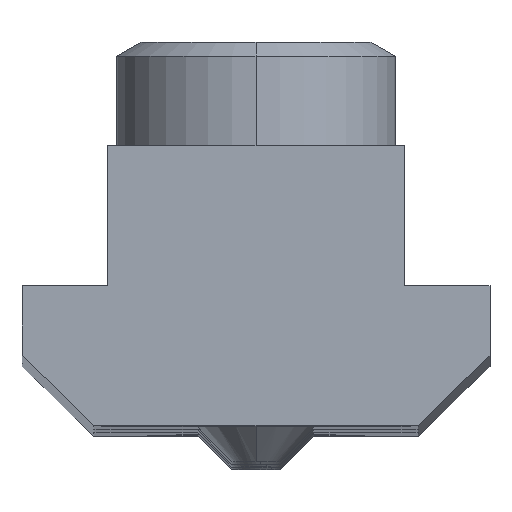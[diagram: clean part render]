
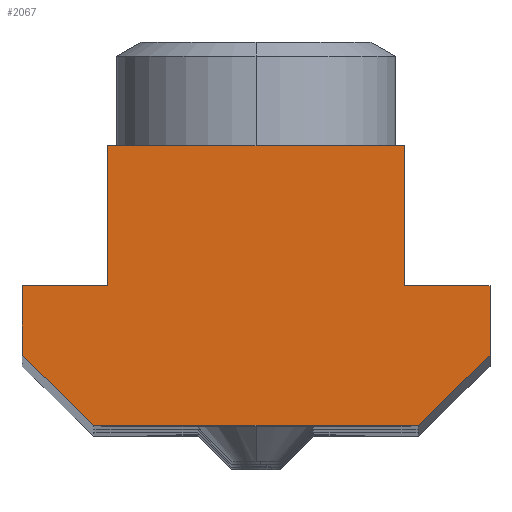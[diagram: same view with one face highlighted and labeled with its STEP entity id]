
A CAD part, top view. The second image highlights one B-rep face of the part: STEP entity #2067.
In plain terms, the highlighted planar face has unit normal (0, 0, 1).
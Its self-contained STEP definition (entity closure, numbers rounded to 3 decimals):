
#40 = VERTEX_POINT ( 'NONE', #1275 ) ;
#109 = ORIENTED_EDGE ( 'NONE', *, *, #1370, .T. ) ;
#114 = CARTESIAN_POINT ( 'NONE',  ( 6.7, -6., 90. ) ) ;
#123 = VECTOR ( 'NONE', #1842, 1000. ) ;
#195 = DIRECTION ( 'NONE',  ( 0.716, 0.698, 0. ) ) ;
#204 = EDGE_CURVE ( 'NONE', #691, #1889, #1549, .T. ) ;
#225 = ORIENTED_EDGE ( 'NONE', *, *, #2765, .T. ) ;
#244 = LINE ( 'NONE', #1767, #336 ) ;
#270 = VECTOR ( 'NONE', #195, 1000. ) ;
#278 = CARTESIAN_POINT ( 'NONE',  ( -4.65, -8., 90. ) ) ;
#292 = ORIENTED_EDGE ( 'NONE', *, *, #1390, .T. ) ;
#299 = EDGE_CURVE ( 'NONE', #1618, #513, #565, .T. ) ;
#336 = VECTOR ( 'NONE', #2431, 1000. ) ;
#338 = DIRECTION ( 'NONE',  ( 1., 0., 0. ) ) ;
#347 = CARTESIAN_POINT ( 'NONE',  ( -4.25, 0., 90. ) ) ;
#366 = DIRECTION ( 'NONE',  ( 0., -1., 0. ) ) ;
#401 = LINE ( 'NONE', #575, #1674 ) ;
#417 = ORIENTED_EDGE ( 'NONE', *, *, #721, .T. ) ;
#444 = VECTOR ( 'NONE', #1649, 1000. ) ;
#483 = CARTESIAN_POINT ( 'NONE',  ( -4.25, -4., 90. ) ) ;
#506 = CARTESIAN_POINT ( 'NONE',  ( 6.7, -6., 90. ) ) ;
#513 = VERTEX_POINT ( 'NONE', #2853 ) ;
#535 = FACE_OUTER_BOUND ( 'NONE', #1025, .T. ) ;
#557 = VERTEX_POINT ( 'NONE', #1051 ) ;
#565 = LINE ( 'NONE', #347, #1011 ) ;
#567 = DIRECTION ( 'NONE',  ( 0., 0., 1. ) ) ;
#575 = CARTESIAN_POINT ( 'NONE',  ( 4.25, 0., 90. ) ) ;
#599 = VECTOR ( 'NONE', #2022, 1000. ) ;
#624 = LINE ( 'NONE', #1508, #270 ) ;
#690 = CARTESIAN_POINT ( 'NONE',  ( -6.7, -4., 90. ) ) ;
#691 = VERTEX_POINT ( 'NONE', #1137 ) ;
#717 = ORIENTED_EDGE ( 'NONE', *, *, #299, .T. ) ;
#721 = EDGE_CURVE ( 'NONE', #1995, #40, #1544, .T. ) ;
#725 = LINE ( 'NONE', #506, #123 ) ;
#747 = VECTOR ( 'NONE', #366, 1000. ) ;
#759 = ORIENTED_EDGE ( 'NONE', *, *, #1658, .T. ) ;
#780 = CARTESIAN_POINT ( 'NONE',  ( 4.25, -4., 90. ) ) ;
#892 = DIRECTION ( 'NONE',  ( -1., 0., 0. ) ) ;
#1011 = VECTOR ( 'NONE', #2103, 1000. ) ;
#1025 = EDGE_LOOP ( 'NONE', ( #292, #2276, #717, #1331, #417, #225, #759, #1298, #2761, #109 ) ) ;
#1051 = CARTESIAN_POINT ( 'NONE',  ( 6.7, -4., 90. ) ) ;
#1137 = CARTESIAN_POINT ( 'NONE',  ( -4.65, -8., 90. ) ) ;
#1267 = CARTESIAN_POINT ( 'NONE',  ( -6.7, -6., 90. ) ) ;
#1275 = CARTESIAN_POINT ( 'NONE',  ( -6.7, -4., 90. ) ) ;
#1298 = ORIENTED_EDGE ( 'NONE', *, *, #204, .T. ) ;
#1325 = VERTEX_POINT ( 'NONE', #114 ) ;
#1331 = ORIENTED_EDGE ( 'NONE', *, *, #1533, .T. ) ;
#1333 = CARTESIAN_POINT ( 'NONE',  ( 4.65, -8., 90. ) ) ;
#1370 = EDGE_CURVE ( 'NONE', #1325, #557, #725, .T. ) ;
#1390 = EDGE_CURVE ( 'NONE', #557, #1625, #1449, .T. ) ;
#1438 = VECTOR ( 'NONE', #1571, 1000. ) ;
#1449 = LINE ( 'NONE', #780, #444 ) ;
#1471 = LINE ( 'NONE', #2362, #747 ) ;
#1473 = VERTEX_POINT ( 'NONE', #1267 ) ;
#1508 = CARTESIAN_POINT ( 'NONE',  ( 4.65, -8., 90. ) ) ;
#1512 = EDGE_CURVE ( 'NONE', #1625, #1618, #401, .T. ) ;
#1533 = EDGE_CURVE ( 'NONE', #513, #1995, #1471, .T. ) ;
#1541 = CARTESIAN_POINT ( 'NONE',  ( 4.25, 0., 90. ) ) ;
#1544 = LINE ( 'NONE', #2261, #2711 ) ;
#1549 = LINE ( 'NONE', #278, #599 ) ;
#1571 = DIRECTION ( 'NONE',  ( 0., -1., 0. ) ) ;
#1618 = VERTEX_POINT ( 'NONE', #1541 ) ;
#1623 = CARTESIAN_POINT ( 'NONE',  ( 0., 0., 90. ) ) ;
#1625 = VERTEX_POINT ( 'NONE', #2637 ) ;
#1649 = DIRECTION ( 'NONE',  ( -1., 0., 0. ) ) ;
#1658 = EDGE_CURVE ( 'NONE', #1473, #691, #244, .T. ) ;
#1667 = PLANE ( 'NONE',  #2697 ) ;
#1674 = VECTOR ( 'NONE', #2576, 1000. ) ;
#1767 = CARTESIAN_POINT ( 'NONE',  ( -6.7, -6., 90. ) ) ;
#1838 = EDGE_CURVE ( 'NONE', #1889, #1325, #624, .T. ) ;
#1842 = DIRECTION ( 'NONE',  ( 0., 1., 0. ) ) ;
#1889 = VERTEX_POINT ( 'NONE', #1333 ) ;
#1995 = VERTEX_POINT ( 'NONE', #483 ) ;
#2022 = DIRECTION ( 'NONE',  ( 1., 0., 0. ) ) ;
#2067 = ADVANCED_FACE ( 'NONE', ( #535 ), #1667, .T. ) ;
#2103 = DIRECTION ( 'NONE',  ( -1., 0., 0. ) ) ;
#2261 = CARTESIAN_POINT ( 'NONE',  ( -4.25, -4., 90. ) ) ;
#2276 = ORIENTED_EDGE ( 'NONE', *, *, #1512, .T. ) ;
#2362 = CARTESIAN_POINT ( 'NONE',  ( -4.25, 0., 90. ) ) ;
#2431 = DIRECTION ( 'NONE',  ( 0.716, -0.698, 0. ) ) ;
#2576 = DIRECTION ( 'NONE',  ( 0., 1., 0. ) ) ;
#2637 = CARTESIAN_POINT ( 'NONE',  ( 4.25, -4., 90. ) ) ;
#2682 = LINE ( 'NONE', #690, #1438 ) ;
#2697 = AXIS2_PLACEMENT_3D ( 'NONE', #1623, #567, #338 ) ;
#2711 = VECTOR ( 'NONE', #892, 1000. ) ;
#2761 = ORIENTED_EDGE ( 'NONE', *, *, #1838, .T. ) ;
#2765 = EDGE_CURVE ( 'NONE', #40, #1473, #2682, .T. ) ;
#2853 = CARTESIAN_POINT ( 'NONE',  ( -4.25, 0., 90. ) ) ;
